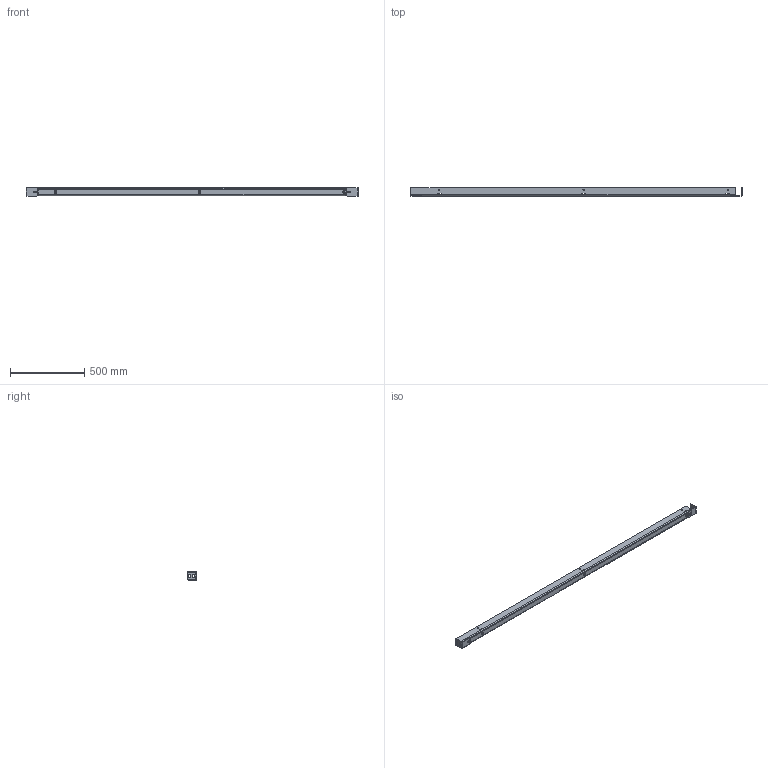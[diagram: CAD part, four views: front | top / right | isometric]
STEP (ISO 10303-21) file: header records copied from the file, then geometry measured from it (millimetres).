
FILE_DESCRIPTION((''),'2;1');
FILE_NAME('CENTER-PANEL-SUPPORT_ASM','2021-11-09T13:00:16',('mikek'),('SAGINAW CONTROL & ENGINEERING'),'CREO PARAMETRIC BY PTC INC, 2017260','CREO PARAMETRIC BY PTC INC, 2017260','');
FILE_SCHEMA(('AUTOMOTIVE_DESIGN { 1 0 10303 214 1 1 1 1 }'));
Length unit declared in the file: inch
Products named in the file (5): CENTER-PANEL-SUPPORT-R-ANGLE; CENTER-PANEL-SUPPORT-L-ANGLE; CENTER-PANEL-SUPPORT-TB-ANGLE; 100018; CENTER-PANEL-SUPPORT_ASM
Assembly tree (7 placements, depth 2):
  CENTER-PANEL-SUPPORT_ASM
    CENTER-PANEL-SUPPORT-R-ANGLE
    CENTER-PANEL-SUPPORT-L-ANGLE
    CENTER-PANEL-SUPPORT-TB-ANGLE  x2
    100018  x3
Bounding box: 2228.85 x 57.15 x 53.98 mm (x, y, z)
Volume: 1287114 mm3; surface area: 846808.5 mm2
Topology: 7 solids, 7 shells, 210 faces, 529 edges, 336 vertices
Faces by surface type: plane 101, cylinder 85, cone 18, bspline 6
Entity records: 6226 total; most frequent: CARTESIAN_POINT 981, DIRECTION 833, ORIENTED_EDGE 786, EDGE_CURVE 393, AXIS2_PLACEMENT_3D 288, VECTOR 257, LINE 257, VERTEX_POINT 252
